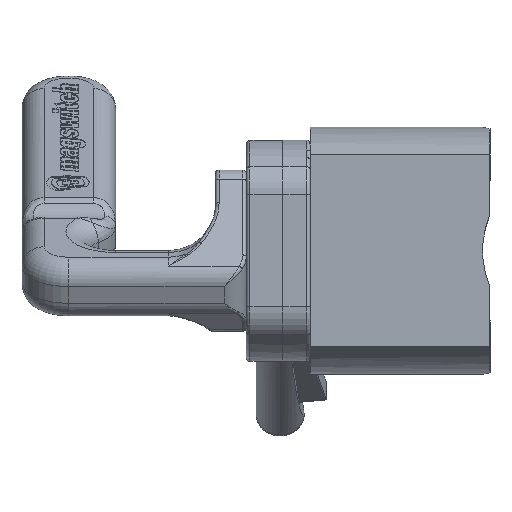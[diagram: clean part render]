
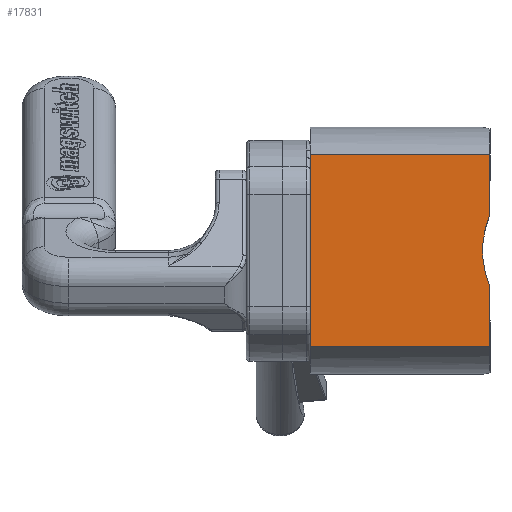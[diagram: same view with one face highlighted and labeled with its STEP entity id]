
A CAD part, left-side view. The second image highlights one B-rep face of the part: STEP entity #17831.
In plain terms, the highlighted planar face has unit normal (-1, 0, 0).
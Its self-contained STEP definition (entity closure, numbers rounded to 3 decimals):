
#1648 = EDGE_CURVE ( 'NONE', #26906, #29908, #9851, .T. ) ;
#2847 = CARTESIAN_POINT ( 'NONE',  ( -21., 48.75, 26.101 ) ) ;
#3085 = ORIENTED_EDGE ( 'NONE', *, *, #22697, .F. ) ;
#3090 = DIRECTION ( 'NONE',  ( 1., 0., 0. ) ) ;
#6321 = DIRECTION ( 'NONE',  ( 0., 0., 1. ) ) ;
#6930 = CARTESIAN_POINT ( 'NONE',  ( -21., 48.75, -26.101 ) ) ;
#7728 = ORIENTED_EDGE ( 'NONE', *, *, #28192, .T. ) ;
#9851 = LINE ( 'NONE', #18090, #19646 ) ;
#9881 = CARTESIAN_POINT ( 'NONE',  ( -21., 48.75, -26.101 ) ) ;
#13266 = VECTOR ( 'NONE', #18086, 1000. ) ;
#14712 = ORIENTED_EDGE ( 'NONE', *, *, #1648, .T. ) ;
#15257 = AXIS2_PLACEMENT_3D ( 'NONE', #25223, #3090, #28968 ) ;
#15477 = LINE ( 'NONE', #2847, #35259 ) ;
#15834 = LINE ( 'NONE', #42044, #16981 ) ;
#15913 = VERTEX_POINT ( 'NONE', #6930 ) ;
#16380 = AXIS2_PLACEMENT_3D ( 'NONE', #47220, #28485, #6321 ) ;
#16981 = VECTOR ( 'NONE', #20402, 1000. ) ;
#17831 = ADVANCED_FACE ( 'NONE', ( #40991 ), #43780, .F. ) ;
#18086 = DIRECTION ( 'NONE',  ( 0., 0., 1. ) ) ;
#18090 = CARTESIAN_POINT ( 'NONE',  ( -21., 0., -26.101 ) ) ;
#19646 = VECTOR ( 'NONE', #36640, 1000. ) ;
#19797 = CARTESIAN_POINT ( 'NONE',  ( -21., 0., 26.101 ) ) ;
#20402 = DIRECTION ( 'NONE',  ( 0., 0., 1. ) ) ;
#20945 = EDGE_LOOP ( 'NONE', ( #42954, #7728, #14712, #3085, #28983, #32901 ) ) ;
#22402 = CARTESIAN_POINT ( 'NONE',  ( -21., 0., -26.101 ) ) ;
#22569 = CIRCLE ( 'NONE', #16380, 25. ) ;
#22697 = EDGE_CURVE ( 'NONE', #26907, #29908, #15477, .T. ) ;
#24041 = VERTEX_POINT ( 'NONE', #22402 ) ;
#24817 = DIRECTION ( 'NONE',  ( 0., -1., 0. ) ) ;
#25223 = CARTESIAN_POINT ( 'NONE',  ( -21., 48.75, -26.101 ) ) ;
#25864 = EDGE_CURVE ( 'NONE', #24041, #47435, #15834, .T. ) ;
#26906 = VERTEX_POINT ( 'NONE', #43311 ) ;
#26907 = VERTEX_POINT ( 'NONE', #28498 ) ;
#28192 = EDGE_CURVE ( 'NONE', #47435, #26906, #22569, .T. ) ;
#28485 = DIRECTION ( 'NONE',  ( 1., 0., 0. ) ) ;
#28498 = CARTESIAN_POINT ( 'NONE',  ( -21., 48.75, 26.101 ) ) ;
#28968 = DIRECTION ( 'NONE',  ( 0., 0., -1. ) ) ;
#28983 = ORIENTED_EDGE ( 'NONE', *, *, #29161, .F. ) ;
#29161 = EDGE_CURVE ( 'NONE', #15913, #26907, #32994, .T. ) ;
#29908 = VERTEX_POINT ( 'NONE', #19797 ) ;
#29966 = CARTESIAN_POINT ( 'NONE',  ( -21., 0., -9.798 ) ) ;
#32901 = ORIENTED_EDGE ( 'NONE', *, *, #41022, .T. ) ;
#32994 = LINE ( 'NONE', #36798, #13266 ) ;
#35259 = VECTOR ( 'NONE', #24817, 1000. ) ;
#36640 = DIRECTION ( 'NONE',  ( 0., 0., 1. ) ) ;
#36798 = CARTESIAN_POINT ( 'NONE',  ( -21., 48.75, -26.101 ) ) ;
#40991 = FACE_OUTER_BOUND ( 'NONE', #20945, .T. ) ;
#41022 = EDGE_CURVE ( 'NONE', #15913, #24041, #43576, .T. ) ;
#42044 = CARTESIAN_POINT ( 'NONE',  ( -21., 0., -26.101 ) ) ;
#42421 = VECTOR ( 'NONE', #46894, 1000. ) ;
#42954 = ORIENTED_EDGE ( 'NONE', *, *, #25864, .T. ) ;
#43311 = CARTESIAN_POINT ( 'NONE',  ( -21., 0., 9.798 ) ) ;
#43576 = LINE ( 'NONE', #9881, #42421 ) ;
#43780 = PLANE ( 'NONE',  #15257 ) ;
#46894 = DIRECTION ( 'NONE',  ( 0., -1., 0. ) ) ;
#47220 = CARTESIAN_POINT ( 'NONE',  ( -21., -23., 0. ) ) ;
#47435 = VERTEX_POINT ( 'NONE', #29966 ) ;
